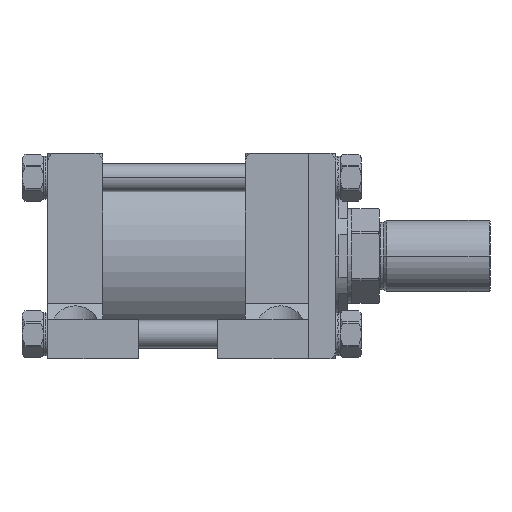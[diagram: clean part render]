
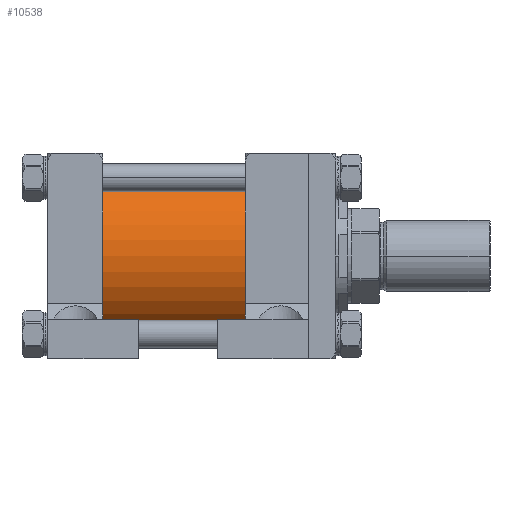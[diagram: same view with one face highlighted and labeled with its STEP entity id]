
A CAD part, front view. The second image highlights one B-rep face of the part: STEP entity #10538.
In plain terms, the highlighted cylindrical face has radius 73.025 mm (diameter 146.05 mm), a partial arc.
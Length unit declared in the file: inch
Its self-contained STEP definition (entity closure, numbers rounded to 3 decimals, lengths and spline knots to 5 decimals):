
#483 = EDGE_CURVE ( 'NONE', #10767, #13479, #34065, .T. ) ;
#2879 = VERTEX_POINT ( 'NONE', #13763 ) ;
#4658 = DIRECTION ( 'NONE',  ( 1., 0., 0. ) ) ;
#7996 = LINE ( 'NONE', #36790, #46773 ) ;
#8616 = DIRECTION ( 'NONE',  ( 1., 0., 0. ) ) ;
#10538 = ADVANCED_FACE ( 'NONE', ( #16763 ), #12078, .T. ) ;
#10767 = VERTEX_POINT ( 'NONE', #32955 ) ;
#11977 = ORIENTED_EDGE ( 'NONE', *, *, #61762, .T. ) ;
#12078 = CYLINDRICAL_SURFACE ( 'NONE', #34808, 2.875 ) ;
#13181 = CARTESIAN_POINT ( 'NONE',  ( -9., 0., -2.875 ) ) ;
#13479 = VERTEX_POINT ( 'NONE', #61070 ) ;
#13763 = CARTESIAN_POINT ( 'NONE',  ( -4., 0., -2.875 ) ) ;
#16763 = FACE_OUTER_BOUND ( 'NONE', #58441, .T. ) ;
#19120 = DIRECTION ( 'NONE',  ( 1., 0., 0. ) ) ;
#19834 = AXIS2_PLACEMENT_3D ( 'NONE', #47824, #4658, #53510 ) ;
#21776 = DIRECTION ( 'NONE',  ( 1., 0., 0. ) ) ;
#27285 = LINE ( 'NONE', #13181, #60180 ) ;
#32955 = CARTESIAN_POINT ( 'NONE',  ( -9., 0., 2.875 ) ) ;
#33022 = DIRECTION ( 'NONE',  ( 0., 0., -1. ) ) ;
#34065 = CIRCLE ( 'NONE', #53075, 2.875 ) ;
#34808 = AXIS2_PLACEMENT_3D ( 'NONE', #45565, #21776, #33022 ) ;
#36790 = CARTESIAN_POINT ( 'NONE',  ( -9., 0., 2.875 ) ) ;
#42325 = DIRECTION ( 'NONE',  ( 1., 0., 0. ) ) ;
#43834 = CARTESIAN_POINT ( 'NONE',  ( -9., 0., 0. ) ) ;
#45565 = CARTESIAN_POINT ( 'NONE',  ( -9., 0., 0. ) ) ;
#46773 = VECTOR ( 'NONE', #8616, 39.37008 ) ;
#46923 = VERTEX_POINT ( 'NONE', #52453 ) ;
#47824 = CARTESIAN_POINT ( 'NONE',  ( -4., 0., 0. ) ) ;
#50330 = EDGE_CURVE ( 'NONE', #46923, #2879, #53810, .T. ) ;
#52453 = CARTESIAN_POINT ( 'NONE',  ( -4., 0., 2.875 ) ) ;
#52523 = EDGE_CURVE ( 'NONE', #10767, #46923, #7996, .T. ) ;
#53075 = AXIS2_PLACEMENT_3D ( 'NONE', #43834, #19120, #58639 ) ;
#53510 = DIRECTION ( 'NONE',  ( 0., 1., 0. ) ) ;
#53810 = CIRCLE ( 'NONE', #19834, 2.875 ) ;
#54289 = ORIENTED_EDGE ( 'NONE', *, *, #52523, .F. ) ;
#58441 = EDGE_LOOP ( 'NONE', ( #54289, #60411, #11977, #59467 ) ) ;
#58639 = DIRECTION ( 'NONE',  ( 0., 1., 0. ) ) ;
#59467 = ORIENTED_EDGE ( 'NONE', *, *, #50330, .F. ) ;
#60180 = VECTOR ( 'NONE', #42325, 39.37008 ) ;
#60411 = ORIENTED_EDGE ( 'NONE', *, *, #483, .T. ) ;
#61070 = CARTESIAN_POINT ( 'NONE',  ( -9., 0., -2.875 ) ) ;
#61762 = EDGE_CURVE ( 'NONE', #13479, #2879, #27285, .T. ) ;
